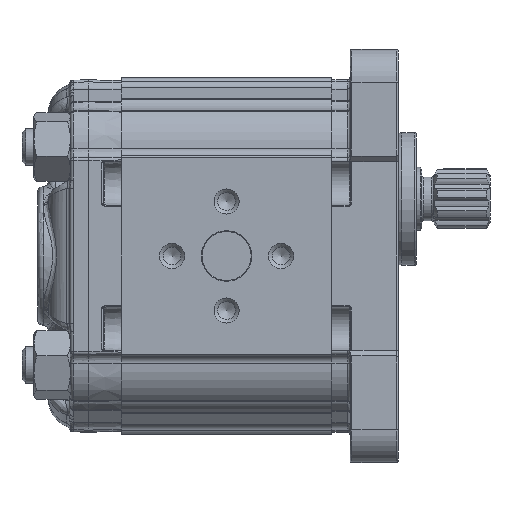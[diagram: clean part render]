
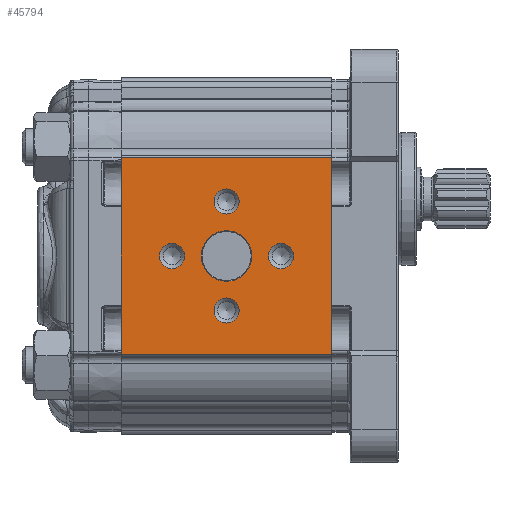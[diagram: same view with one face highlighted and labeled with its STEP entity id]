
A CAD part, left-side view. The second image highlights one B-rep face of the part: STEP entity #45794.
In plain terms, the highlighted planar face has unit normal (-1, 0, 0) as drawn and (1, 0, 0) by its records, which use the part's own axes.
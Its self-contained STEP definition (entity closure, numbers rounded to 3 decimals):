
#2633=PLANE('',#48443);
#3609=LINE('',#63454,#5466);
#3621=LINE('',#63593,#5478);
#3638=LINE('',#63637,#5495);
#3639=LINE('',#63638,#5496);
#5466=VECTOR('',#53239,1000.);
#5478=VECTOR('',#53369,1000.);
#5495=VECTOR('',#53422,1000.);
#5496=VECTOR('',#53423,1000.);
#9685=ORIENTED_EDGE('',*,*,#17942,.T.);
#9686=ORIENTED_EDGE('',*,*,#17943,.T.);
#9687=ORIENTED_EDGE('',*,*,#17944,.T.);
#9688=ORIENTED_EDGE('',*,*,#17945,.T.);
#9689=ORIENTED_EDGE('',*,*,#17946,.T.);
#9690=ORIENTED_EDGE('',*,*,#17921,.F.);
#9691=ORIENTED_EDGE('',*,*,#17947,.F.);
#9692=ORIENTED_EDGE('',*,*,#17851,.T.);
#9693=ORIENTED_EDGE('',*,*,#17948,.T.);
#17851=EDGE_CURVE('',#22210,#22209,#3609,.T.);
#17921=EDGE_CURVE('',#22277,#22278,#3621,.T.);
#17942=EDGE_CURVE('',#22282,#22282,#24916,.F.);
#17943=EDGE_CURVE('',#22283,#22283,#24917,.F.);
#17944=EDGE_CURVE('',#22284,#22284,#24918,.F.);
#17945=EDGE_CURVE('',#22285,#22285,#24919,.F.);
#17946=EDGE_CURVE('',#22286,#22286,#24920,.F.);
#17947=EDGE_CURVE('',#22210,#22277,#3638,.T.);
#17948=EDGE_CURVE('',#22209,#22278,#3639,.T.);
#22209=VERTEX_POINT('',#63453);
#22210=VERTEX_POINT('',#63455);
#22277=VERTEX_POINT('',#63592);
#22278=VERTEX_POINT('',#63594);
#22282=VERTEX_POINT('',#63628);
#22283=VERTEX_POINT('',#63630);
#22284=VERTEX_POINT('',#63632);
#22285=VERTEX_POINT('',#63634);
#22286=VERTEX_POINT('',#63636);
#24916=CIRCLE('',#48444,6.95);
#24917=CIRCLE('',#48445,3.459);
#24918=CIRCLE('',#48446,3.459);
#24919=CIRCLE('',#48447,3.459);
#24920=CIRCLE('',#48448,3.459);
#26531=EDGE_LOOP('',(#9685));
#26532=EDGE_LOOP('',(#9686));
#26533=EDGE_LOOP('',(#9687));
#26534=EDGE_LOOP('',(#9688));
#26535=EDGE_LOOP('',(#9689));
#26536=EDGE_LOOP('',(#9690,#9691,#9692,#9693));
#28851=FACE_BOUND('',#26531,.T.);
#28852=FACE_BOUND('',#26532,.T.);
#28853=FACE_BOUND('',#26533,.T.);
#28854=FACE_BOUND('',#26534,.T.);
#28855=FACE_BOUND('',#26535,.T.);
#28856=FACE_BOUND('',#26536,.T.);
#45794=ADVANCED_FACE('',(#28851,#28852,#28853,#28854,#28855,#28856),#2633,
 .T.);
#48443=AXIS2_PLACEMENT_3D('',#63626,#53410,#53411);
#48444=AXIS2_PLACEMENT_3D('',#63627,#53412,#53413);
#48445=AXIS2_PLACEMENT_3D('',#63629,#53414,#53415);
#48446=AXIS2_PLACEMENT_3D('',#63631,#53416,#53417);
#48447=AXIS2_PLACEMENT_3D('',#63633,#53418,#53419);
#48448=AXIS2_PLACEMENT_3D('',#63635,#53420,#53421);
#53239=DIRECTION('',(0.,0.,1.));
#53369=DIRECTION('',(0.,0.,1.));
#53410=DIRECTION('',(1.,0.,0.));
#53411=DIRECTION('',(0.,0.,-1.));
#53412=DIRECTION('',(1.,0.,0.));
#53413=DIRECTION('',(0.,0.,-1.));
#53414=DIRECTION('',(1.,0.,0.));
#53415=DIRECTION('',(0.,0.,-1.));
#53416=DIRECTION('',(1.,0.,0.));
#53417=DIRECTION('',(0.,0.,-1.));
#53418=DIRECTION('',(1.,0.,0.));
#53419=DIRECTION('',(0.,0.,-1.));
#53420=DIRECTION('',(1.,0.,0.));
#53421=DIRECTION('',(0.,0.,-1.));
#53422=DIRECTION('',(0.,-1.,0.));
#53423=DIRECTION('',(0.,-1.,0.));
#63453=CARTESIAN_POINT('',(43.,58.,27.048));
#63454=CARTESIAN_POINT('',(43.,58.,27.048));
#63455=CARTESIAN_POINT('',(43.,58.,-27.048));
#63592=CARTESIAN_POINT('',(43.,0.,-27.048));
#63593=CARTESIAN_POINT('',(43.,0.,27.048));
#63594=CARTESIAN_POINT('',(43.,0.,27.048));
#63626=CARTESIAN_POINT('',(43.,58.,27.048));
#63627=CARTESIAN_POINT('',(43.,29.,0.));
#63628=CARTESIAN_POINT('',(43.,29.,-6.95));
#63629=CARTESIAN_POINT('',(43.,29.,-15.));
#63630=CARTESIAN_POINT('',(43.,29.,-18.459));
#63631=CARTESIAN_POINT('',(43.,44.,0.));
#63632=CARTESIAN_POINT('',(43.,44.,-3.459));
#63633=CARTESIAN_POINT('',(43.,29.,15.));
#63634=CARTESIAN_POINT('',(43.,29.,11.542));
#63635=CARTESIAN_POINT('',(43.,14.,0.));
#63636=CARTESIAN_POINT('',(43.,14.,-3.458));
#63637=CARTESIAN_POINT('',(43.,58.,-27.048));
#63638=CARTESIAN_POINT('',(43.,58.,27.048));
